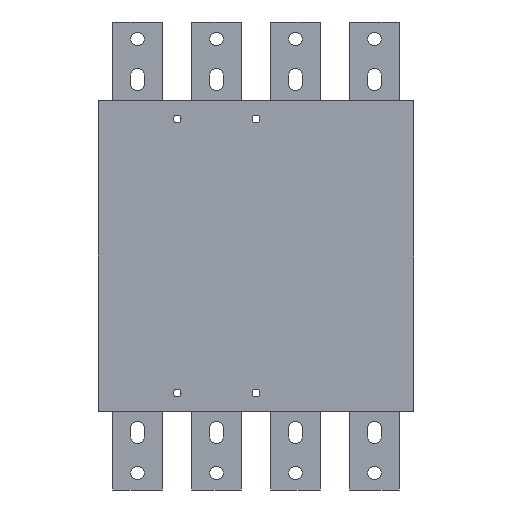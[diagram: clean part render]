
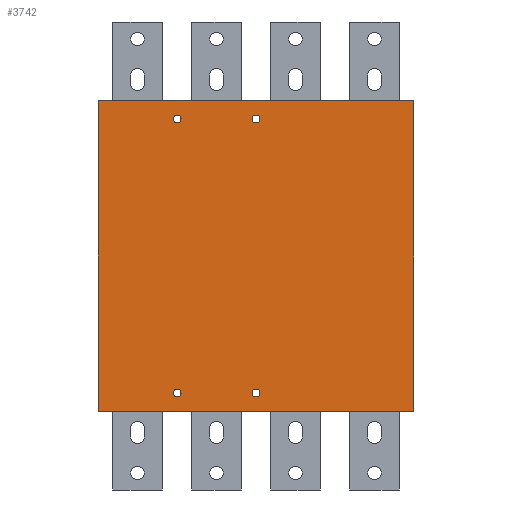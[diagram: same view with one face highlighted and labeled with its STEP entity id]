
A CAD part, front view. The second image highlights one B-rep face of the part: STEP entity #3742.
In plain terms, the highlighted planar face has unit normal (0, -1, 0).
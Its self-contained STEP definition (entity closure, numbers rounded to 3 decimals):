
#60 = CARTESIAN_POINT ( 'NONE',  ( -35., 0., -118. ) ) ;
#116 = DIRECTION ( 'NONE',  ( 0., 0., 1. ) ) ;
#124 = AXIS2_PLACEMENT_3D ( 'NONE', #4386, #4938, #1426 ) ;
#138 = FACE_BOUND ( 'NONE', #6987, .T. ) ;
#479 = DIRECTION ( 'NONE',  ( 0., 1., 0. ) ) ;
#531 = EDGE_LOOP ( 'NONE', ( #3962, #2678 ) ) ;
#549 = EDGE_CURVE ( 'NONE', #5588, #7286, #3417, .T. ) ;
#663 = EDGE_CURVE ( 'NONE', #849, #5820, #4695, .T. ) ;
#686 = FACE_OUTER_BOUND ( 'NONE', #1321, .T. ) ;
#732 = DIRECTION ( 'NONE',  ( 0., 1., 0. ) ) ;
#849 = VERTEX_POINT ( 'NONE', #6722 ) ;
#855 = AXIS2_PLACEMENT_3D ( 'NONE', #5602, #2187, #2710 ) ;
#857 = PLANE ( 'NONE',  #124 ) ;
#869 = DIRECTION ( 'NONE',  ( 0., 0., 1. ) ) ;
#901 = ORIENTED_EDGE ( 'NONE', *, *, #663, .F. ) ;
#1183 = CIRCLE ( 'NONE', #2902, 3.5 ) ;
#1318 = DIRECTION ( 'NONE',  ( 0., 1., 0. ) ) ;
#1321 = EDGE_LOOP ( 'NONE', ( #901, #2577, #5731, #4164 ) ) ;
#1386 = CARTESIAN_POINT ( 'NONE',  ( -105., 0., 137.5 ) ) ;
#1426 = DIRECTION ( 'NONE',  ( 0., 0., -1. ) ) ;
#1651 = AXIS2_PLACEMENT_3D ( 'NONE', #3347, #5098, #4517 ) ;
#1665 = DIRECTION ( 'NONE',  ( 0., 0., 1. ) ) ;
#1809 = CARTESIAN_POINT ( 'NONE',  ( 35., 0., -125. ) ) ;
#1935 = EDGE_CURVE ( 'NONE', #3735, #4640, #6867, .T. ) ;
#1974 = EDGE_LOOP ( 'NONE', ( #6664, #5441 ) ) ;
#2187 = DIRECTION ( 'NONE',  ( 0., 1., 0. ) ) ;
#2240 = CIRCLE ( 'NONE', #4465, 3.5 ) ;
#2328 = CARTESIAN_POINT ( 'NONE',  ( -105., 0., 137.5 ) ) ;
#2347 = EDGE_CURVE ( 'NONE', #2363, #4117, #7070, .T. ) ;
#2363 = VERTEX_POINT ( 'NONE', #7347 ) ;
#2392 = DIRECTION ( 'NONE',  ( 0., 0., 1. ) ) ;
#2560 = ORIENTED_EDGE ( 'NONE', *, *, #6726, .T. ) ;
#2577 = ORIENTED_EDGE ( 'NONE', *, *, #6402, .T. ) ;
#2678 = ORIENTED_EDGE ( 'NONE', *, *, #5461, .T. ) ;
#2710 = DIRECTION ( 'NONE',  ( 0., 0., 1. ) ) ;
#2793 = CIRCLE ( 'NONE', #855, 3.5 ) ;
#2850 = LINE ( 'NONE', #5203, #4947 ) ;
#2902 = AXIS2_PLACEMENT_3D ( 'NONE', #3648, #1318, #116 ) ;
#2952 = CARTESIAN_POINT ( 'NONE',  ( -35., 0., 125. ) ) ;
#2964 = VECTOR ( 'NONE', #3815, 1000. ) ;
#3047 = DIRECTION ( 'NONE',  ( 0., 0., 1. ) ) ;
#3064 = VERTEX_POINT ( 'NONE', #1809 ) ;
#3161 = VERTEX_POINT ( 'NONE', #2952 ) ;
#3347 = CARTESIAN_POINT ( 'NONE',  ( 35., 0., -121.5 ) ) ;
#3371 = VERTEX_POINT ( 'NONE', #6108 ) ;
#3417 = CIRCLE ( 'NONE', #6489, 3.5 ) ;
#3578 = DIRECTION ( 'NONE',  ( 0., 1., 0. ) ) ;
#3648 = CARTESIAN_POINT ( 'NONE',  ( 35., 0., -121.5 ) ) ;
#3735 = VERTEX_POINT ( 'NONE', #6599 ) ;
#3742 = ADVANCED_FACE ( 'NONE', ( #4854, #4778, #138, #6863, #686 ), #857, .T. ) ;
#3815 = DIRECTION ( 'NONE',  ( -1., 0., 0. ) ) ;
#3962 = ORIENTED_EDGE ( 'NONE', *, *, #549, .T. ) ;
#4027 = DIRECTION ( 'NONE',  ( 1., 0., 0. ) ) ;
#4109 = CARTESIAN_POINT ( 'NONE',  ( -105., 0., -137.5 ) ) ;
#4117 = VERTEX_POINT ( 'NONE', #60 ) ;
#4164 = ORIENTED_EDGE ( 'NONE', *, *, #5172, .F. ) ;
#4259 = AXIS2_PLACEMENT_3D ( 'NONE', #6835, #5687, #5028 ) ;
#4386 = CARTESIAN_POINT ( 'NONE',  ( 0., 0., 0. ) ) ;
#4441 = CARTESIAN_POINT ( 'NONE',  ( 175., 0., 137.5 ) ) ;
#4465 = AXIS2_PLACEMENT_3D ( 'NONE', #5154, #479, #1665 ) ;
#4517 = DIRECTION ( 'NONE',  ( 0., 0., 1. ) ) ;
#4549 = CARTESIAN_POINT ( 'NONE',  ( 35., 0., -118. ) ) ;
#4640 = VERTEX_POINT ( 'NONE', #4441 ) ;
#4695 = LINE ( 'NONE', #4941, #2964 ) ;
#4778 = FACE_BOUND ( 'NONE', #1974, .T. ) ;
#4854 = FACE_BOUND ( 'NONE', #531, .T. ) ;
#4909 = DIRECTION ( 'NONE',  ( 0., 0., 1. ) ) ;
#4938 = DIRECTION ( 'NONE',  ( 0., -1., 0. ) ) ;
#4941 = CARTESIAN_POINT ( 'NONE',  ( -105., 0., -137.5 ) ) ;
#4947 = VECTOR ( 'NONE', #6841, 1000. ) ;
#5028 = DIRECTION ( 'NONE',  ( 0., 0., 1. ) ) ;
#5098 = DIRECTION ( 'NONE',  ( 0., 1., 0. ) ) ;
#5154 = CARTESIAN_POINT ( 'NONE',  ( 35., 0., 121.5 ) ) ;
#5157 = ORIENTED_EDGE ( 'NONE', *, *, #7163, .T. ) ;
#5172 = EDGE_CURVE ( 'NONE', #5820, #3735, #7340, .T. ) ;
#5203 = CARTESIAN_POINT ( 'NONE',  ( 175., 0., -137.5 ) ) ;
#5372 = AXIS2_PLACEMENT_3D ( 'NONE', #5497, #7288, #4909 ) ;
#5441 = ORIENTED_EDGE ( 'NONE', *, *, #6914, .T. ) ;
#5461 = EDGE_CURVE ( 'NONE', #7286, #5588, #2240, .T. ) ;
#5497 = CARTESIAN_POINT ( 'NONE',  ( -35., 0., -121.5 ) ) ;
#5588 = VERTEX_POINT ( 'NONE', #6904 ) ;
#5602 = CARTESIAN_POINT ( 'NONE',  ( -35., 0., 121.5 ) ) ;
#5687 = DIRECTION ( 'NONE',  ( 0., 1., 0. ) ) ;
#5731 = ORIENTED_EDGE ( 'NONE', *, *, #1935, .F. ) ;
#5796 = VECTOR ( 'NONE', #869, 1000. ) ;
#5820 = VERTEX_POINT ( 'NONE', #4109 ) ;
#6033 = CIRCLE ( 'NONE', #5372, 3.5 ) ;
#6048 = ORIENTED_EDGE ( 'NONE', *, *, #7406, .T. ) ;
#6068 = AXIS2_PLACEMENT_3D ( 'NONE', #7148, #732, #2392 ) ;
#6071 = ORIENTED_EDGE ( 'NONE', *, *, #2347, .T. ) ;
#6108 = CARTESIAN_POINT ( 'NONE',  ( -35., 0., 118. ) ) ;
#6402 = EDGE_CURVE ( 'NONE', #849, #4640, #2850, .T. ) ;
#6489 = AXIS2_PLACEMENT_3D ( 'NONE', #6526, #3578, #3047 ) ;
#6526 = CARTESIAN_POINT ( 'NONE',  ( 35., 0., 121.5 ) ) ;
#6599 = CARTESIAN_POINT ( 'NONE',  ( -105., 0., 137.5 ) ) ;
#6629 = CIRCLE ( 'NONE', #1651, 3.5 ) ;
#6664 = ORIENTED_EDGE ( 'NONE', *, *, #7376, .T. ) ;
#6722 = CARTESIAN_POINT ( 'NONE',  ( 175., 0., -137.5 ) ) ;
#6726 = EDGE_CURVE ( 'NONE', #4117, #2363, #6033, .T. ) ;
#6829 = VERTEX_POINT ( 'NONE', #4549 ) ;
#6835 = CARTESIAN_POINT ( 'NONE',  ( -35., 0., -121.5 ) ) ;
#6841 = DIRECTION ( 'NONE',  ( 0., 0., 1. ) ) ;
#6863 = FACE_BOUND ( 'NONE', #7462, .T. ) ;
#6867 = LINE ( 'NONE', #2328, #7135 ) ;
#6904 = CARTESIAN_POINT ( 'NONE',  ( 35., 0., 125. ) ) ;
#6914 = EDGE_CURVE ( 'NONE', #3371, #3161, #2793, .T. ) ;
#6987 = EDGE_LOOP ( 'NONE', ( #5157, #6048 ) ) ;
#7000 = CARTESIAN_POINT ( 'NONE',  ( 35., 0., 118. ) ) ;
#7070 = CIRCLE ( 'NONE', #4259, 3.5 ) ;
#7135 = VECTOR ( 'NONE', #4027, 1000. ) ;
#7148 = CARTESIAN_POINT ( 'NONE',  ( -35., 0., 121.5 ) ) ;
#7163 = EDGE_CURVE ( 'NONE', #6829, #3064, #6629, .T. ) ;
#7264 = CIRCLE ( 'NONE', #6068, 3.5 ) ;
#7286 = VERTEX_POINT ( 'NONE', #7000 ) ;
#7288 = DIRECTION ( 'NONE',  ( 0., 1., 0. ) ) ;
#7340 = LINE ( 'NONE', #1386, #5796 ) ;
#7347 = CARTESIAN_POINT ( 'NONE',  ( -35., 0., -125. ) ) ;
#7376 = EDGE_CURVE ( 'NONE', #3161, #3371, #7264, .T. ) ;
#7406 = EDGE_CURVE ( 'NONE', #3064, #6829, #1183, .T. ) ;
#7462 = EDGE_LOOP ( 'NONE', ( #2560, #6071 ) ) ;
